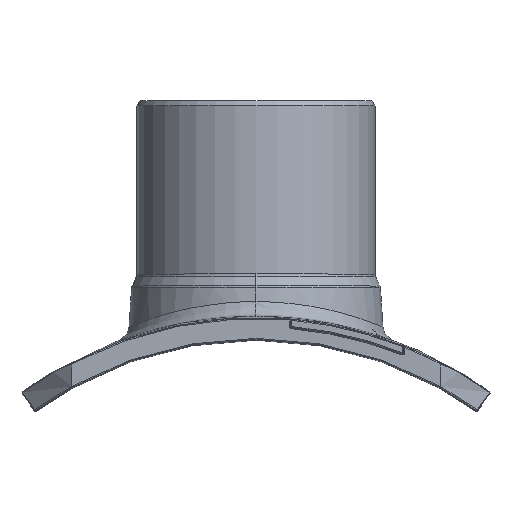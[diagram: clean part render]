
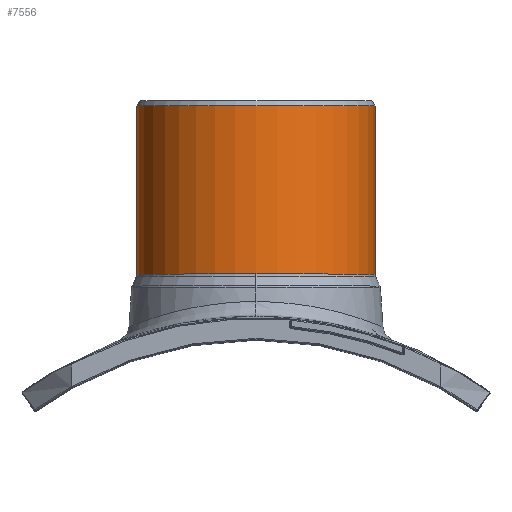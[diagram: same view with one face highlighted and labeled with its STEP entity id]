
A CAD part, top view. The second image highlights one B-rep face of the part: STEP entity #7556.
In plain terms, the highlighted cylindrical face has radius 112.5 mm (diameter 225 mm), a partial arc.
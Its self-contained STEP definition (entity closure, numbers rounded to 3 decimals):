
#1532=CARTESIAN_POINT('',(0.,417.083,0.));
#1533=DIRECTION('',(0.,-1.,0.));
#1534=DIRECTION('',(1.,0.,0.));
#1535=AXIS2_PLACEMENT_3D('',#1532,#1533,#1534);
#1540=CARTESIAN_POINT('',(0.,417.083,0.));
#1541=DIRECTION('',(0.,-1.,0.));
#1542=DIRECTION('',(0.,0.,1.));
#1543=AXIS2_PLACEMENT_3D('',#1540,#1541,#1542);
#1548=DIRECTION('',(0.,-1.,0.));
#1549=VECTOR('',#1548,158.917);
#1550=CARTESIAN_POINT('',(-112.5,576.,0.));
#1551=LINE('151588',#1550,#1549);
#1555=DIRECTION('',(0.,-1.,0.));
#1556=VECTOR('',#1555,158.917);
#1557=CARTESIAN_POINT('',(112.5,576.,0.));
#1558=LINE('151587',#1557,#1556);
#1609=CARTESIAN_POINT('',(0.,576.,0.));
#1610=DIRECTION('',(0.,1.,0.));
#1611=DIRECTION('',(-1.,0.,0.));
#1612=AXIS2_PLACEMENT_3D('',#1609,#1610,#1611);
#5979=CARTESIAN_POINT('',(112.5,576.,0.));
#5980=CARTESIAN_POINT('',(-112.5,576.,0.));
#5981=VERTEX_POINT('',#5979);
#5982=VERTEX_POINT('',#5980);
#6003=CARTESIAN_POINT('',(112.5,417.083,0.));
#6004=CARTESIAN_POINT('',(0.,417.083,112.5));
#6005=VERTEX_POINT('',#6003);
#6006=VERTEX_POINT('',#6004);
#6007=CARTESIAN_POINT('',(-112.5,417.083,0.));
#6008=VERTEX_POINT('',#6007);
#7541=CARTESIAN_POINT('',(0.,581.,0.));
#7542=DIRECTION('',(0.,1.,0.));
#7543=DIRECTION('',(1.,0.,0.));
#7544=AXIS2_PLACEMENT_3D('',#7541,#7542,#7543);
#7545=CYLINDRICAL_SURFACE('4584',#7544,112.5);
#7546=ORIENTED_EDGE('151579',*,*,#7518,.T.);
#7547=ORIENTED_EDGE('151581',*,*,#7533,.T.);
#7549=ORIENTED_EDGE('151588',*,*,#7548,.F.);
#7551=ORIENTED_EDGE('4600',*,*,#7550,.T.);
#7553=ORIENTED_EDGE('151587',*,*,#7552,.T.);
#7554=EDGE_LOOP('4584',(#7546,#7547,#7549,#7551,#7553));
#7555=FACE_OUTER_BOUND('4584',#7554,.F.);
#1536=CIRCLE('151579',#1535,112.5);
#1544=CIRCLE('151581',#1543,112.5);
#1613=CIRCLE('4600',#1612,112.5);
#7518=EDGE_CURVE('151579',#6005,#6006,#1536,.T.);
#7533=EDGE_CURVE('151581',#6006,#6008,#1544,.T.);
#7548=EDGE_CURVE('151588',#5982,#6008,#1551,.T.);
#7550=EDGE_CURVE('4600',#5982,#5981,#1613,.T.);
#7552=EDGE_CURVE('151587',#5981,#6005,#1558,.T.);
#7556=ADVANCED_FACE('4584',(#7555),#7545,.T.);
